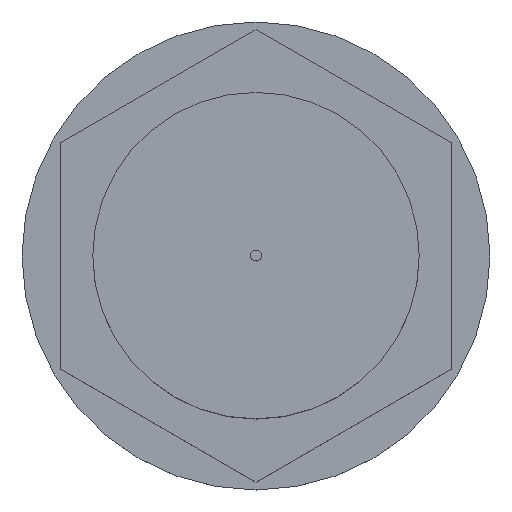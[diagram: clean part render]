
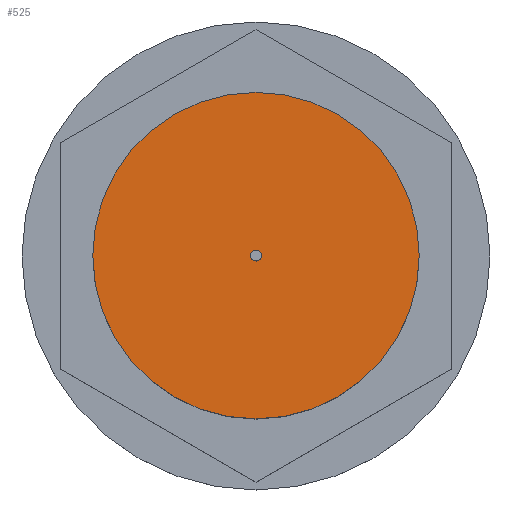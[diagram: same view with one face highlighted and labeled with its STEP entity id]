
A CAD part, top view. The second image highlights one B-rep face of the part: STEP entity #525.
In plain terms, the highlighted planar face has unit normal (0, 0, 1) as drawn and (0, 1, 0) by its records, which use the part's own axes.
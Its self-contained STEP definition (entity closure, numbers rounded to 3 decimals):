
#111 = VERTEX_POINT ( 'NONE', #696 ) ;
#280 = VERTEX_POINT ( 'NONE', #1060 ) ;
#282 = EDGE_CURVE ( 'NONE', #280, #283, #1059, .T. ) ;
#283 = VERTEX_POINT ( 'NONE', #1054 ) ;
#390 = VERTEX_POINT ( 'NONE', #886 ) ;
#398 = ORIENTED_EDGE ( 'NONE', *, *, #524, .T. ) ;
#424 = EDGE_CURVE ( 'NONE', #390, #111, #1278, .T. ) ;
#524 = EDGE_CURVE ( 'NONE', #111, #390, #1107, .T. ) ;
#525 = ADVANCED_FACE ( 'NONE', ( #1108, #1102 ), #1101, .T. ) ;
#526 = EDGE_LOOP ( 'NONE', ( #527, #529 ) ) ;
#527 = ORIENTED_EDGE ( 'NONE', *, *, #528, .F. ) ;
#528 = EDGE_CURVE ( 'NONE', #283, #280, #1096, .T. ) ;
#529 = ORIENTED_EDGE ( 'NONE', *, *, #282, .F. ) ;
#530 = EDGE_LOOP ( 'NONE', ( #531, #398 ) ) ;
#531 = ORIENTED_EDGE ( 'NONE', *, *, #424, .T. ) ;
#696 = CARTESIAN_POINT ( 'NONE',  ( 0., 0., -15. ) ) ;
#886 = CARTESIAN_POINT ( 'NONE',  ( 0., 0., 15. ) ) ;
#1054 = CARTESIAN_POINT ( 'NONE',  ( 0., 0., 0.5 ) ) ;
#1055 = DIRECTION ( 'NONE',  ( 0., 0., 1. ) ) ;
#1056 = DIRECTION ( 'NONE',  ( 0., 1., 0. ) ) ;
#1057 = CARTESIAN_POINT ( 'NONE',  ( 0., 0., 0. ) ) ;
#1058 = AXIS2_PLACEMENT_3D ( 'NONE', #1057, #1056, #1055 ) ;
#1059 = CIRCLE ( 'NONE', #1058, 0.5 ) ;
#1060 = CARTESIAN_POINT ( 'NONE',  ( 0., 0., -0.5 ) ) ;
#1094 = CARTESIAN_POINT ( 'NONE',  ( 0., 0., 0. ) ) ;
#1095 = AXIS2_PLACEMENT_3D ( 'NONE', #1094, #1175, #1174 ) ;
#1096 = CIRCLE ( 'NONE', #1095, 0.5 ) ;
#1097 = DIRECTION ( 'NONE',  ( 0., 0., 1. ) ) ;
#1098 = DIRECTION ( 'NONE',  ( 0., 1., 0. ) ) ;
#1099 = CARTESIAN_POINT ( 'NONE',  ( 0., 0., 0. ) ) ;
#1100 = AXIS2_PLACEMENT_3D ( 'NONE', #1099, #1098, #1097 ) ;
#1101 = PLANE ( 'NONE',  #1100 ) ;
#1102 = FACE_OUTER_BOUND ( 'NONE', #530, .T. ) ;
#1103 = DIRECTION ( 'NONE',  ( 0., 0., 1. ) ) ;
#1104 = DIRECTION ( 'NONE',  ( 0., 1., 0. ) ) ;
#1105 = CARTESIAN_POINT ( 'NONE',  ( 0., 0., 0. ) ) ;
#1106 = AXIS2_PLACEMENT_3D ( 'NONE', #1105, #1104, #1103 ) ;
#1107 = CIRCLE ( 'NONE', #1106, 15. ) ;
#1108 = FACE_BOUND ( 'NONE', #526, .T. ) ;
#1158 = CARTESIAN_POINT ( 'NONE',  ( 0., 0., 0. ) ) ;
#1159 = AXIS2_PLACEMENT_3D ( 'NONE', #1158, #1193, #1192 ) ;
#1174 = DIRECTION ( 'NONE',  ( 0., 0., 1. ) ) ;
#1175 = DIRECTION ( 'NONE',  ( 0., 1., 0. ) ) ;
#1192 = DIRECTION ( 'NONE',  ( 0., 0., 1. ) ) ;
#1193 = DIRECTION ( 'NONE',  ( 0., 1., 0. ) ) ;
#1278 = CIRCLE ( 'NONE', #1159, 15. ) ;
